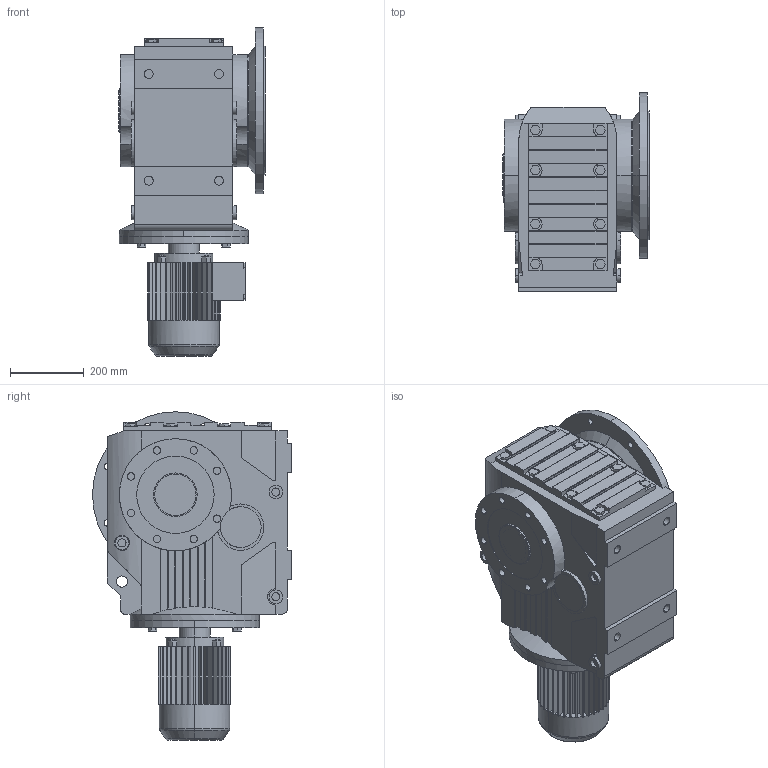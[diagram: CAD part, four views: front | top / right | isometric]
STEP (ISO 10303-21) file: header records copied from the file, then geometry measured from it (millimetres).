
FILE_DESCRIPTION(('Open CASCADE Model'),'2;1');
FILE_NAME('Open CASCADE Shape Model','2018-09-13T11:10:08',('Author'),( 'Open CASCADE'),'Open CASCADE STEP processor 6.3','Open CASCADE 6.3' ,'Unknown');
FILE_SCHEMA(('AUTOMOTIVE_DESIGN_CC2 { 1 2 10303 214 -1 1 5 4 }'));
Length unit declared in the file: millimetre
Products named in the file (5): 41_KAF107DV100L-A; KA37‵107_107.step; 萇儂_350-DV100L-325-410-197-166.step; す瑩諾陑粣K_107.step; 楊擘K_107.step
Assembly tree (4 placements, depth 2):
  41_KAF107DV100L-A
    KA37‵107_107.step
    萇儂_350-DV100L-325-410-197-166.step
    す瑩諾陑粣K_107.step
    楊擘K_107.step
Bounding box: 397.75 x 540 x 891 mm (x, y, z)
Volume: 80692638.1 mm3; surface area: 2557854.9 mm2
Topology: 4 solids, 4 shells, 881 faces, 2292 edges, 1492 vertices
Faces by surface type: plane 561, cylinder 306, cone 10, torus 4
Entity records: 66801 total; most frequent: CARTESIAN_POINT 23821, DIRECTION 7194, ORIENTED_EDGE 4584, PCURVE 4584, DEFINITIONAL_REPRESENTATION 4584, LINE 3658, VECTOR 3658, EDGE_CURVE 2292
